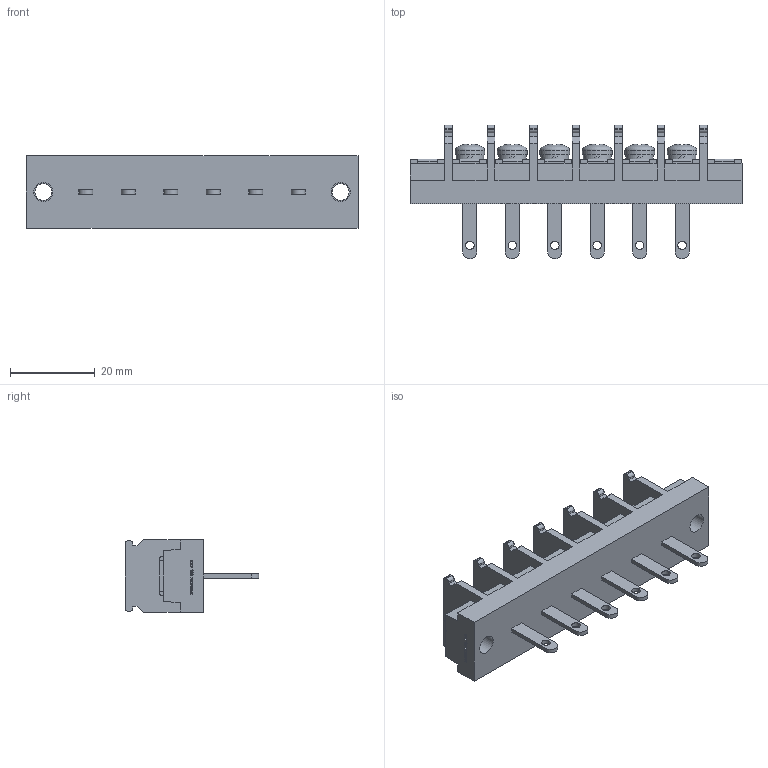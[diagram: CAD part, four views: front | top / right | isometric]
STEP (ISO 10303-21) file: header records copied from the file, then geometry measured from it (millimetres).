
FILE_DESCRIPTION(/* description */ ('Alibre Inc.'),/* implementation_level */ '2;1');
FILE_NAME(/* name */ 'export0',/* time_stamp */ '2015-10-14T19:14:55+09:00',/* author */ (''),/* organization */ (''),/* preprocessor_version */ 'ST-DEVELOPER v14',/* originating_system */ 'Alibre',/* authorisation */ '');
FILE_SCHEMA (('CONFIG_CONTROL_DESIGN'));
Length unit declared in the file: centimetre
Products named in the file (1): ID_1
Bounding box: 78.2 x 31.5 x 17 mm (x, y, z)
Volume: 14250.2 mm3; surface area: 8834.4 mm2
Topology: 1 solids, 17 shells, 852 faces, 2316 edges, 1540 vertices
Faces by surface type: plane 628, bspline 104, cylinder 78, cone 24, torus 12, sphere 6
Full cylindrical faces by diameter (mm): 2 x6, 4 x8, 4.5 x2, 6.5 x6, 7 x6
Entity records: 25962 total; most frequent: CARTESIAN_POINT 5747, ORIENTED_EDGE 4516, DIRECTION 3198, EDGE_CURVE 2258, VECTOR 1668, LINE 1668, VERTEX_POINT 1516, AXIS2_PLACEMENT_3D 1075
